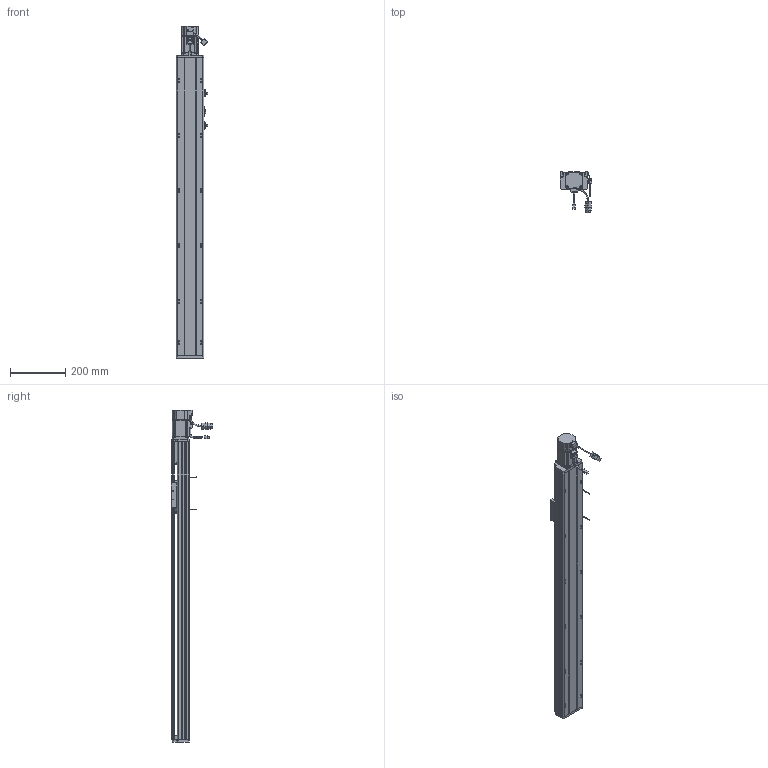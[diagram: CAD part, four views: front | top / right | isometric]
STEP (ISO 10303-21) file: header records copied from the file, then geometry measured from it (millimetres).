
FILE_DESCRIPTION (( 'STEP AP214' ), '1' );
FILE_NAME ('CTH10-850.STEP', '2019-11-18T08:16:52', ( '微软用户' ), ( '微软中国' ), 'SwSTEP 2.0', 'SolidWorks 2017', '' );
FILE_SCHEMA (( 'AUTOMOTIVE_DESIGN' ));
Length unit declared in the file: millimetre
Products named in the file (34): 噩砃MGN12C; CTH10-蹟簽蟀諉啣; CTH10-侜督萇儂啣; 遣喳蝶15x12x8; M3-L10囀鞠褒蹟佪; MGN12C-R1; CTH10-傷啣; CTH10粣創釱蚾饜极; SFH1605; 怢湛200W侜督萇儂ECMA-CX0602ES; 噩砃M3-L10囀鞠褒蹟佪; CTH10-盖板_默认<按加工>; M4-L8囀鞠褒蹟佪; 噩砃MGN12C-2R420-Z0CHC; 100耀郪-覜茼んえ; 6000Z粣創; MGN12C; CTH10-850; M3-L8囀鞠褒蹟佪; 噩砃MGN12C-R1; SFH1605-288; COL12B-粣遠; M4-L6半圆头内六角螺丝; CTH10-底座_默认<按加工>; CTH10-盓傅釱; M5-L20囀鞠褒蹟佪; CTH10-粣創釱; MGN12C-2R420-Z0CHC; BEARING_BaseModel20190604090351; 粣創揤啣; 7001-DF; CTH10-移动座_默认<按加工>; EE-SX672; 坶踡蹟譫
Assembly tree (100 placements, depth 4):
  CTH10-850
    CTH10-底座_默认<按加工>
    CTH10-移动座_默认<按加工>
    CTH10-蹟簽蟀諉啣
    CTH10-盓傅釱
    CTH10-傷啣
    CTH10-侜督萇儂啣
    SFH1605-288
    SFH1605
    CTH10-盖板_默认<按加工>
    怢湛200W侜督萇儂ECMA-CX0602ES
    CTH10粣創釱蚾饜极
      CTH10-粣創釱
      7001-DF
        BEARING_BaseModel20190604090351  x2
      粣創揤啣
      COL12B-粣遠  x2
      坶踡蹟譫
      M4-L8囀鞠褒蹟佪  x4
      M3-L10囀鞠褒蹟佪  x6
    M3-L10囀鞠褒蹟佪  x19
    M5-L20囀鞠褒蹟佪  x4
    遣喳蝶15x12x8  x3
    6000Z粣創
    M4-L6半圆头内六角螺丝  x4
    M4-L8囀鞠褒蹟佪  x8
    EE-SX672  x2
    M3-L8囀鞠褒蹟佪  x4
    100耀郪-覜茼んえ
    MGN12C-2R420-Z0CHC
      MGN12C
      MGN12C-R1  x2
      M3-L10囀鞠褒蹟佪  x8
    噩砃M3-L10囀鞠褒蹟佪
    噩砃MGN12C-2R420-Z0CHC
      噩砃MGN12C
      噩砃MGN12C-R1  x2
      噩砃M3-L10囀鞠褒蹟佪  x8
Bounding box: 114.24 x 151.37 x 1202 mm (x, y, z)
Volume: 3010696 mm3; surface area: 1129066.5 mm2
Topology: 96 solids, 105 shells, 4725 faces, 11982 edges, 7484 vertices
Faces by surface type: plane 2350, cylinder 1488, cone 601, bspline 241, torus 33, sphere 12
Entity records: 101640 total; most frequent: CARTESIAN_POINT 30786, ORIENTED_EDGE 14468, DIRECTION 13891, EDGE_CURVE 7234, AXIS2_PLACEMENT_3D 4986, VERTEX_POINT 4698, VECTOR 3919, LINE 3919
